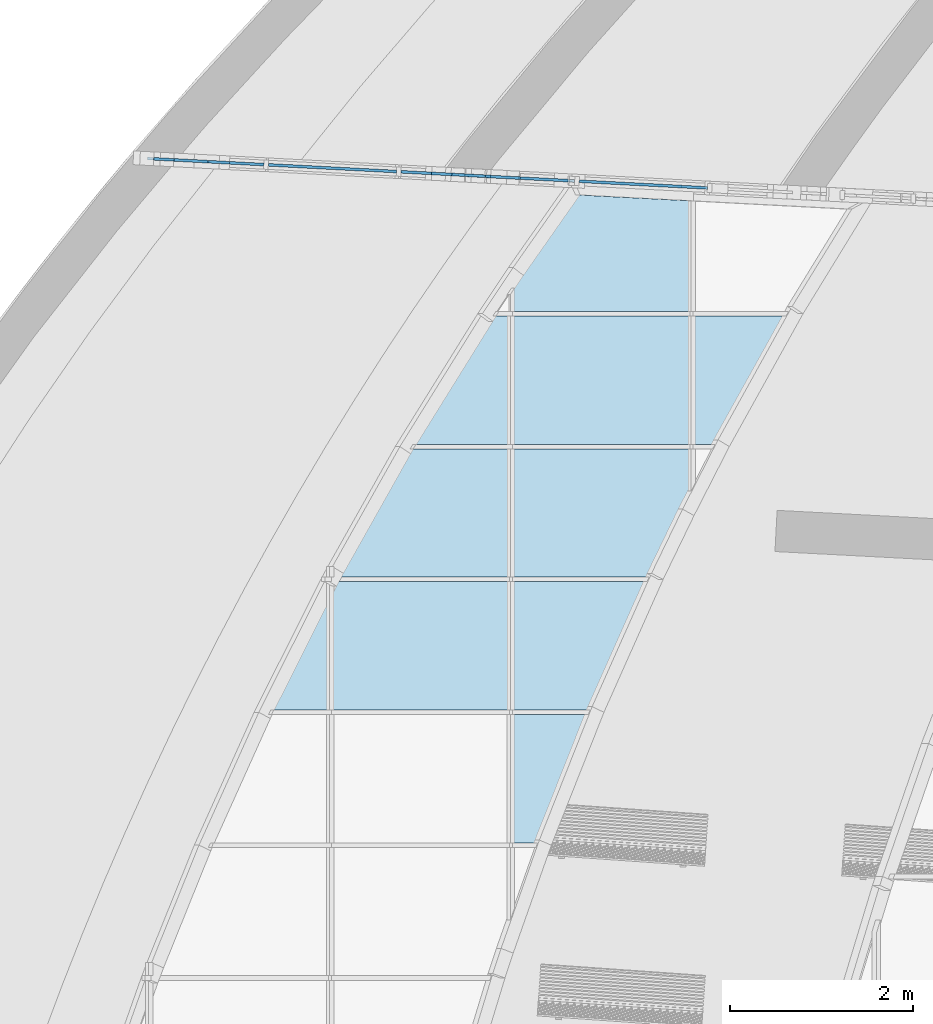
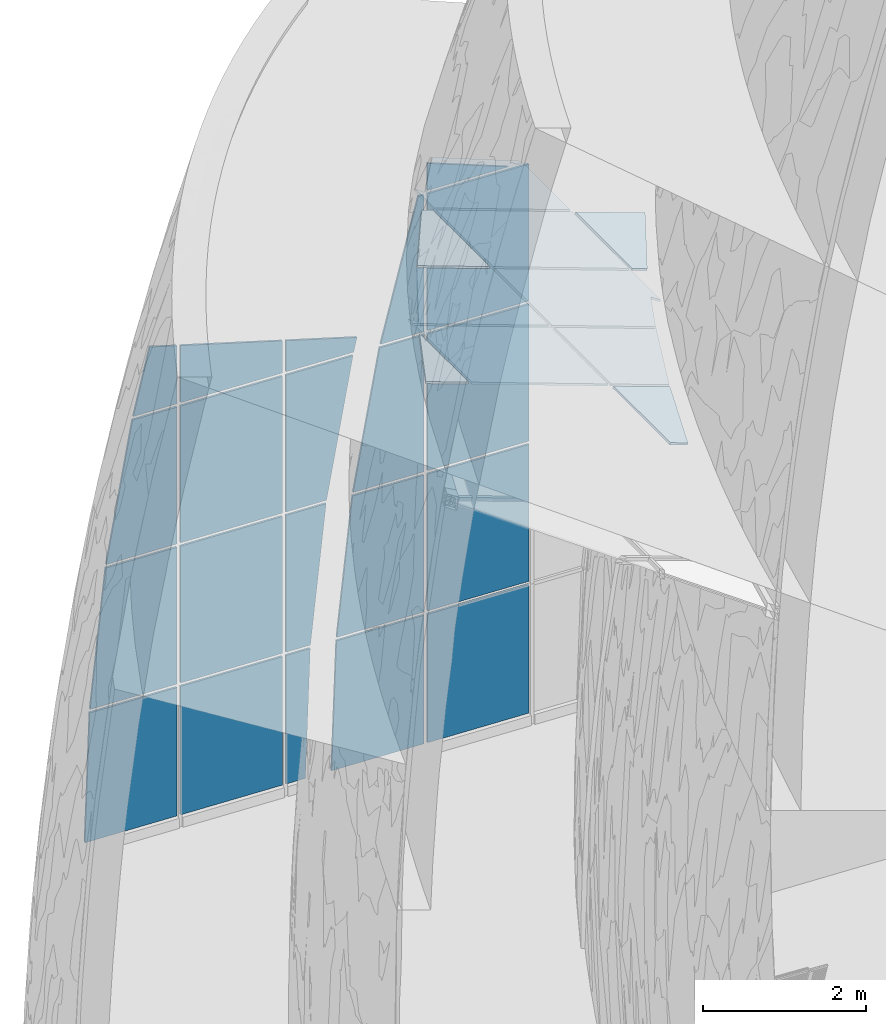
# One storey, part 42 of 82: 31 plates, 2 elements without a shape of their own.
"""IFC2X3 building model written with IfcOpenShell, lengths in millimetres."""

from ifc_helpers import new_model, entity, si_unit, converted_unit, derived_unit, direction, frame, frame_2d, origin, place, context, subcontext, project, spatial, polyline, rectangle, outline, extrude, source, transform, mapped, material, layer, layer_set, layer_usage, type_object, type_shapes, element, aggregate, save


model = new_model("IFC2X3")

# Units and contexts
model_context = context("Model", 3, precision=0.01, world=origin(), true_north=direction((6.12303176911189e-17, 1.0)))
body_context = subcontext(model_context, "Body", "Model", "MODEL_VIEW")
ifc_project = project(units=[si_unit("LENGTHUNIT", "METRE", prefix="MILLI"), si_unit("AREAUNIT", "SQUARE_METRE"), si_unit("VOLUMEUNIT", "CUBIC_METRE"), converted_unit("PLANEANGLEUNIT", "DEGREE", entity("IfcRatioMeasure", 0.0174532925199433), si_unit("PLANEANGLEUNIT", "RADIAN"), dimensions=[0, 0, 0, 0, 0, 0, 0]), si_unit("MASSUNIT", "GRAM", prefix="KILO"), derived_unit("MASSDENSITYUNIT", [(si_unit("MASSUNIT", "GRAM", prefix="KILO"), 1), (si_unit("LENGTHUNIT", "METRE"), -3)]), si_unit("TIMEUNIT", "SECOND"), si_unit("FREQUENCYUNIT", "HERTZ"), si_unit("THERMODYNAMICTEMPERATUREUNIT", "DEGREE_CELSIUS"), derived_unit("THERMALTRANSMITTANCEUNIT", [(si_unit("MASSUNIT", "GRAM", prefix="KILO"), 1), (si_unit("THERMODYNAMICTEMPERATUREUNIT", "KELVIN"), -1), (si_unit("TIMEUNIT", "SECOND"), -3)]), derived_unit("VOLUMETRICFLOWRATEUNIT", [(si_unit("LENGTHUNIT", "METRE"), 3), (si_unit("TIMEUNIT", "SECOND"), -1)]), si_unit("ELECTRICCURRENTUNIT", "AMPERE"), si_unit("ELECTRICVOLTAGEUNIT", "VOLT"), si_unit("POWERUNIT", "WATT"), si_unit("FORCEUNIT", "NEWTON", prefix="KILO"), si_unit("ILLUMINANCEUNIT", "LUX"), si_unit("LUMINOUSFLUXUNIT", "LUMEN"), si_unit("LUMINOUSINTENSITYUNIT", "CANDELA"), derived_unit("USERDEFINED", [(si_unit("MASSUNIT", "GRAM", prefix="KILO"), -1), (si_unit("LENGTHUNIT", "METRE"), -2), (si_unit("TIMEUNIT", "SECOND"), 3), (si_unit("LUMINOUSFLUXUNIT", "LUMEN"), 1)]), derived_unit("LINEARVELOCITYUNIT", [(si_unit("LENGTHUNIT", "METRE"), 1), (si_unit("TIMEUNIT", "SECOND"), -1)]), si_unit("PRESSUREUNIT", "PASCAL"), derived_unit("USERDEFINED", [(si_unit("LENGTHUNIT", "METRE"), -2), (si_unit("MASSUNIT", "GRAM", prefix="KILO"), 1), (si_unit("TIMEUNIT", "SECOND"), -2)])], contexts=[model_context])

# Site, building, storey
site_placement = place(None, origin())
site = spatial("IfcSite", under=ifc_project, at=site_placement, Name="表面", CompositionType="ELEMENT")
building_placement = place(site_placement, origin())
building = spatial("IfcBuilding", under=site, at=building_placement, CompositionType="ELEMENT")
storey_placement = place(building_placement, origin())
storey = spatial("IfcBuildingStorey", under=building, at=storey_placement, Name="1F", CompositionType="ELEMENT", Elevation=0.0)

# Curtain wall, plates
curtain_wall_type = type_object("IfcCurtainWallType", Name="幕墙系统:1450 x 2100mm", PredefinedType="NOTDEFINED")
curtain_wall_1_placement = place(storey_placement, origin())
curtain_wall_1 = element("IfcCurtainWall", 1, at=curtain_wall_1_placement, inside=storey, type_object=curtain_wall_type, Name="幕墙系统:1450 x 2100mm", ObjectType="幕墙系统:1450 x 2100mm")
ifc_material = material(Name="<Unnamed>")
ifc_layer = layer(ifc_material, 30.0)
ifc_layer_set = layer_set([ifc_layer], Name="幕墙系统:1450 x 2100mm")
ifc_layer_usage_1 = layer_usage(ifc_layer_set, "AXIS3", "POSITIVE", 0.0)
plate_type_1 = type_object("IfcPlateType", Name="玻璃", PredefinedType="CURTAIN_PANEL", material=ifc_layer_set)
shared_shape_1 = source(origin(), body_context, "Body", "SweptSolid", [
    extrude(rectangle(XDim=30.0, YDim=1400.0, at=frame_2d((0.0, 3.97903932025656e-13), x_axis=(1.0, 0.0))), frame((0.0, 0.0, 0.0), z_axis=(0.0, 0.0, 1.0), x_axis=(0.0, 1.0, 0.0)), (0.0, 0.0, 1.0), 2050.0),
])
type_shapes(plate_type_1, [shared_shape_1])
plate_1_placement = place(curtain_wall_1_placement, frame((-34757.9006727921, 3041.00133366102, 2125.0), z_axis=(0.0, 0.0, 1.0), x_axis=(0.998629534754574, -0.0523359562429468, 0.0)))
plate_1 = element("IfcPlate", 2, at=plate_1_placement, type_object=plate_type_1, material=ifc_layer_usage_1, Name="系统嵌板:玻璃", ObjectType="玻璃", context=body_context, shape_type="MappedRepresentation", body=[
    mapped(shared_shape_1, transform((0.0, 0.0, 0.0), scale=1.0)),
])
ifc_layer_usage_2 = layer_usage(ifc_layer_set, "AXIS3", "POSITIVE", 0.0)
plate_2_placement = place(curtain_wall_1_placement, frame((-34757.9006727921, 3041.00133366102, 4225.0), z_axis=(0.0, 0.0, 1.0), x_axis=(0.998629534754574, -0.0523359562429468, 0.0)))
plate_2 = element("IfcPlate", 3, at=plate_2_placement, type_object=plate_type_1, material=ifc_layer_usage_2, Name="系统嵌板:玻璃", ObjectType="玻璃", context=body_context, shape_type="MappedRepresentation", body=[
    mapped(shared_shape_1, transform((0.0, 0.0, 0.0), scale=1.0)),
])

curtain_wall_2_placement = place(storey_placement, origin())
curtain_wall_2 = element("IfcCurtainWall", 4, at=curtain_wall_2_placement, inside=storey, type_object=curtain_wall_type, Name="幕墙系统:1450 x 2100mm", ObjectType="幕墙系统:1450 x 2100mm")
ifc_layer_usage_3 = layer_usage(ifc_layer_set, "AXIS3", "POSITIVE", 0.0)
plate_3_placement = place(curtain_wall_2_placement, frame((-30860.0542247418, 728.123280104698, 8552.40943556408), z_axis=(-0.93969262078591, 0.0, 0.342020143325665), x_axis=(0.0, -1.0, 0.0)))
plate_3 = element("IfcPlate", 5, at=plate_3_placement, type_object=plate_type_1, material=ifc_layer_usage_3, Name="系统嵌板:玻璃", ObjectType="玻璃", context=body_context, shape_type="MappedRepresentation", body=[
    mapped(shared_shape_1, transform((0.0, 0.0, 0.0), scale=1.0)),
])
ifc_layer_usage_4 = layer_usage(ifc_layer_set, "AXIS3", "POSITIVE", 0.0)
plate_4_placement = place(curtain_wall_2_placement, frame((-32833.4087283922, -2171.8767198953, 9270.65173654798), z_axis=(-0.93969262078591, 0.0, 0.342020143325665), x_axis=(0.0, -1.0, 0.0)))
plate_4 = element("IfcPlate", 6, at=plate_4_placement, type_object=plate_type_1, material=ifc_layer_usage_4, Name="系统嵌板:玻璃", ObjectType="玻璃", context=body_context, shape_type="MappedRepresentation", body=[
    mapped(shared_shape_1, transform((0.0, 0.0, 0.0), scale=1.0)),
])
ifc_layer_usage_5 = layer_usage(ifc_layer_set, "AXIS3", "POSITIVE", 0.0)
plate_5_placement = place(curtain_wall_2_placement, frame((-31364.5512716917, 2862.11826024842, 2125.0), z_axis=(0.0, 0.0, 1.0), x_axis=(0.998629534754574, -0.0523359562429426, 0.0)))
plate_5 = element("IfcPlate", 7, at=plate_5_placement, type_object=plate_type_1, material=ifc_layer_usage_5, Name="系统嵌板:玻璃", ObjectType="玻璃", context=body_context, shape_type="MappedRepresentation", body=[
    mapped(shared_shape_1, transform((0.0, 0.0, 0.0), scale=1.0)),
])
ifc_layer_usage_6 = layer_usage(ifc_layer_set, "AXIS3", "POSITIVE", 0.0)
plate_6_placement = place(curtain_wall_2_placement, frame((-31364.5512716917, 2862.1182602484, 4225.0), z_axis=(0.0, 0.0, 1.0), x_axis=(0.998629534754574, -0.0523359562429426, 0.0)))
plate_6 = element("IfcPlate", 8, at=plate_6_placement, type_object=plate_type_1, material=ifc_layer_usage_6, Name="系统嵌板:玻璃", ObjectType="玻璃", context=body_context, shape_type="MappedRepresentation", body=[
    mapped(shared_shape_1, transform((0.0, 0.0, 0.0), scale=1.0)),
])
ifc_layer_usage_7 = layer_usage(ifc_layer_set, "AXIS3", "POSITIVE", 0.0)
plate_7_placement = place(curtain_wall_2_placement, frame((-31364.5512716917, 2862.11826024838, 6325.0), z_axis=(0.0, 0.0, 1.0), x_axis=(0.998629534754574, -0.0523359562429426, 0.0)))
plate_7 = element("IfcPlate", 9, at=plate_7_placement, type_object=plate_type_1, material=ifc_layer_usage_7, Name="系统嵌板:玻璃", ObjectType="玻璃", context=body_context, shape_type="MappedRepresentation", body=[
    mapped(shared_shape_1, transform((0.0, 0.0, 0.0), scale=1.0)),
])

# Plate
ifc_layer_usage_8 = layer_usage(ifc_layer_set, "AXIS3", "POSITIVE", 0.0)
plate_type_2 = type_object("IfcPlateType", Name="玻璃", PredefinedType="CURTAIN_PANEL", material=ifc_layer_set)
shared_shape_2 = source(origin(), body_context, "Body", "SweptSolid", [
    extrude(outline(polyline([(-984.524070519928, -617.774024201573), (941.635339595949, -617.774024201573), (983.365009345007, 584.383533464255), (-940.47627842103, 651.164514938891), (-984.524070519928, -617.774024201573)])), frame((16.7053007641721, -15.0, 962.5), z_axis=(0.0, 1.0, 0.0), x_axis=(0.0346914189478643, 0.0, 0.999398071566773)), (0.0, 0.0, 1.0), 30.0),
])
type_shapes(plate_type_2, [shared_shape_2])
plate_8_placement = place(curtain_wall_1_placement, frame((-36140.8485866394, 3113.47856268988, 150.0), z_axis=(0.0, 0.0, 1.0), x_axis=(0.998629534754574, -0.0523359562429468, 0.0)))
plate_8 = element("IfcPlate", 10, at=plate_8_placement, type_object=plate_type_2, material=ifc_layer_usage_8, Name="系统嵌板:玻璃", ObjectType="玻璃", context=body_context, shape_type="MappedRepresentation", body=[
    mapped(shared_shape_2, transform((0.0, 0.0, 0.0), scale=1.0)),
])

ifc_layer_usage_9 = layer_usage(ifc_layer_set, "AXIS3", "POSITIVE", 0.0)
plate_type_3 = type_object("IfcPlateType", Name="玻璃", PredefinedType="CURTAIN_PANEL", material=ifc_layer_set)
shared_shape_3 = source(origin(), body_context, "Body", "SweptSolid", [
    extrude(rectangle(XDim=30.0, YDim=1400.0, at=frame_2d((0.0, 3.97903932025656e-13), x_axis=(1.0, 0.0))), frame((0.0, 0.0, 0.0), z_axis=(0.0, 0.0, 1.0), x_axis=(0.0, 1.0, 0.0)), (0.0, 0.0, 1.0), 1925.0),
])
type_shapes(plate_type_3, [shared_shape_3])
plate_9_placement = place(curtain_wall_1_placement, frame((-34757.9006727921, 3041.00133366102, 150.0), z_axis=(0.0, 0.0, 1.0), x_axis=(0.998629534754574, -0.0523359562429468, 0.0)))
plate_9 = element("IfcPlate", 11, at=plate_9_placement, type_object=plate_type_3, material=ifc_layer_usage_9, Name="系统嵌板:玻璃", ObjectType="玻璃", context=body_context, shape_type="MappedRepresentation", body=[
    mapped(shared_shape_3, transform((0.0, 0.0, 0.0), scale=1.0)),
])

ifc_layer_usage_10 = layer_usage(ifc_layer_set, "AXIS3", "POSITIVE", 0.0)
plate_10_placement = place(curtain_wall_2_placement, frame((-31364.5512716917, 2862.11826024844, 150.0), z_axis=(0.0, 0.0, 1.0), x_axis=(0.998629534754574, -0.0523359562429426, 0.0)))
plate_10 = element("IfcPlate", 12, at=plate_10_placement, type_object=plate_type_3, material=ifc_layer_usage_10, Name="系统嵌板:玻璃", ObjectType="玻璃", context=body_context, shape_type="MappedRepresentation", body=[
    mapped(shared_shape_3, transform((0.0, 0.0, 0.0), scale=1.0)),
])

ifc_layer_usage_11 = layer_usage(ifc_layer_set, "AXIS3", "POSITIVE", 0.0)
plate_type_4 = type_object("IfcPlateType", Name="玻璃", PredefinedType="CURTAIN_PANEL", material=ifc_layer_set)
shared_shape_4 = source(origin(), body_context, "Body", "SweptSolid", [
    extrude(outline(polyline([(-962.5, -150.91141552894), (962.5, -150.91141552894), (962.5, 184.644975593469), (-962.5, 117.177855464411), (-962.5, -150.91141552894)])), frame((-16.8667800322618, -15.0, 962.5), z_axis=(0.0, 1.0, 0.0), x_axis=(0.0, 0.0, 1.0)), (0.0, 0.0, 1.0), 30.0),
])
type_shapes(plate_type_4, [shared_shape_4])
plate_11_placement = place(curtain_wall_1_placement, frame((-33841.3802603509, 2992.9685341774, 150.0), z_axis=(0.0, 0.0, 1.0), x_axis=(0.998629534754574, -0.0523359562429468, 0.0)))
plate_11 = element("IfcPlate", 13, at=plate_11_placement, type_object=plate_type_4, material=ifc_layer_usage_11, Name="系统嵌板:玻璃", ObjectType="玻璃", context=body_context, shape_type="MappedRepresentation", body=[
    mapped(shared_shape_4, transform((0.0, 0.0, 0.0), scale=1.0)),
])

ifc_layer_usage_12 = layer_usage(ifc_layer_set, "AXIS3", "POSITIVE", 0.0)
plate_type_5 = type_object("IfcPlateType", Name="玻璃", PredefinedType="CURTAIN_PANEL", material=ifc_layer_set)
shared_shape_5 = source(origin(), body_context, "Body", "SweptSolid", [
    extrude(outline(polyline([(-1087.51229020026, -542.537057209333), (973.728067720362, -542.537057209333), (1076.302580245, 435.6385273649), (-962.518357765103, 649.435587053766), (-1087.51229020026, -542.537057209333)])), frame((53.7423326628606, -15.0, 1025.0), z_axis=(0.0, 1.0, 0.0), x_axis=(0.104291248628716, 0.0, 0.994546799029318)), (0.0, 0.0, 1.0), 30.0),
])
type_shapes(plate_type_5, [shared_shape_5])
plate_12_placement = place(curtain_wall_1_placement, frame((-36105.3057424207, 3111.61584115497, 2125.0), z_axis=(0.0, 0.0, 1.0), x_axis=(0.998629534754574, -0.0523359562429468, 0.0)))
plate_12 = element("IfcPlate", 14, at=plate_12_placement, type_object=plate_type_5, material=ifc_layer_usage_12, Name="系统嵌板:玻璃", ObjectType="玻璃", context=body_context, shape_type="MappedRepresentation", body=[
    mapped(shared_shape_5, transform((0.0, 0.0, 0.0), scale=1.0)),
])

ifc_layer_usage_13 = layer_usage(ifc_layer_set, "AXIS3", "POSITIVE", 0.0)
plate_type_6 = type_object("IfcPlateType", Name="玻璃", PredefinedType="CURTAIN_PANEL", material=ifc_layer_set)
shared_shape_6 = source(origin(), body_context, "Body", "SweptSolid", [
    extrude(outline(polyline([(-1025.0, -223.318765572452), (1025.0, -223.318765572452), (1025.0, 331.625046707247), (-1025.0, 115.012484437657), (-1025.0, -223.318765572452)])), frame((-54.153140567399, -15.0, 1025.0), z_axis=(0.0, 1.0, 0.0), x_axis=(0.0, 0.0, 1.0)), (0.0, 0.0, 1.0), 30.0),
])
type_shapes(plate_type_6, [shared_shape_6])
plate_13_placement = place(curtain_wall_1_placement, frame((-33731.8368811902, 2987.22760894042, 2125.0), z_axis=(0.0, 0.0, 1.0), x_axis=(0.998629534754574, -0.0523359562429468, 0.0)))
plate_13 = element("IfcPlate", 15, at=plate_13_placement, type_object=plate_type_6, material=ifc_layer_usage_13, Name="系统嵌板:玻璃", ObjectType="玻璃", context=body_context, shape_type="MappedRepresentation", body=[
    mapped(shared_shape_6, transform((0.0, 0.0, 0.0), scale=1.0)),
])

ifc_layer_usage_14 = layer_usage(ifc_layer_set, "AXIS3", "POSITIVE", 0.0)
plate_type_7 = type_object("IfcPlateType", Name="玻璃", PredefinedType="CURTAIN_PANEL", material=ifc_layer_set)
shared_shape_7 = source(origin(), body_context, "Body", "SweptSolid", [
    extrude(outline(polyline([(-1109.8590029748, -390.999932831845), (971.829943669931, -390.999932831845), (1078.41125214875, 212.833559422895), (-940.38219284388, 569.166306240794), (-1109.8590029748, -390.999932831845)])), frame((90.4602366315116, -15.0, 1025.0), z_axis=(0.0, 1.0, 0.0), x_axis=(0.173820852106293, 0.0, 0.984777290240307)), (0.0, 0.0, 1.0), 30.0),
])
type_shapes(plate_type_7, [shared_shape_7])
plate_14_placement = place(curtain_wall_1_placement, frame((-35993.7089715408, 3105.76730221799, 4225.0), z_axis=(0.0, 0.0, 1.0), x_axis=(0.998629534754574, -0.0523359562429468, 0.0)))
plate_14 = element("IfcPlate", 16, at=plate_14_placement, type_object=plate_type_7, material=ifc_layer_usage_14, Name="系统嵌板:玻璃", ObjectType="玻璃", context=body_context, shape_type="MappedRepresentation", body=[
    mapped(shared_shape_7, transform((0.0, 0.0, 0.0), scale=1.0)),
])

ifc_layer_usage_15 = layer_usage(ifc_layer_set, "AXIS3", "POSITIVE", 0.0)
plate_type_8 = type_object("IfcPlateType", Name="玻璃", PredefinedType="CURTAIN_PANEL", material=ifc_layer_set)
shared_shape_8 = source(origin(), body_context, "Body", "SweptSolid", [
    extrude(outline(polyline([(-1025.0, -371.422138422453), (1025.0, -371.422138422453), (1025.0, 553.753555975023), (-1025.0, 189.090720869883), (-1025.0, -371.422138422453)])), frame((-91.1657087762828, -15.0, 1025.0), z_axis=(0.0, 1.0, 0.0), x_axis=(0.0, 0.0, 1.0)), (0.0, 0.0, 1.0), 30.0),
])
type_shapes(plate_type_8, [shared_shape_8])
plate_15_placement = place(curtain_wall_1_placement, frame((-33546.9746350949, 2977.53938914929, 4225.0), z_axis=(0.0, 0.0, 1.0), x_axis=(0.998629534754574, -0.0523359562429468, 0.0)))
plate_15 = element("IfcPlate", 17, at=plate_15_placement, type_object=plate_type_8, material=ifc_layer_usage_15, Name="系统嵌板:玻璃", ObjectType="玻璃", context=body_context, shape_type="MappedRepresentation", body=[
    mapped(shared_shape_8, transform((0.0, 0.0, 0.0), scale=1.0)),
])

ifc_layer_usage_16 = layer_usage(ifc_layer_set, "AXIS3", "POSITIVE", 0.0)
plate_type_9 = type_object("IfcPlateType", Name="玻璃", PredefinedType="CURTAIN_PANEL", material=ifc_layer_set)
shared_shape_9 = source(origin(), body_context, "Body", "SweptSolid", [
    extrude(outline(polyline([(-529.186854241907, -243.092206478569), (466.731537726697, -243.092206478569), (454.567776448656, 143.952165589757), (-392.112459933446, 342.232247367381), (-529.186854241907, -243.092206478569)])), frame((56.7713947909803, -15.0, 459.817683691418), z_axis=(0.0, 1.0, 0.0), x_axis=(0.228016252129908, 0.0, 0.973657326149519)), (0.0, 0.0, 1.0), 30.0),
])
type_shapes(plate_type_9, [shared_shape_9])
plate_16_placement = place(curtain_wall_1_placement, frame((-35807.0412051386, 3095.98445911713, 6325.0), z_axis=(0.0, 0.0, 1.0), x_axis=(0.998629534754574, -0.0523359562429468, 0.0)))
plate_16 = element("IfcPlate", 18, at=plate_16_placement, type_object=plate_type_9, material=ifc_layer_usage_16, Name="系统嵌板:玻璃", ObjectType="玻璃", context=body_context, shape_type="MappedRepresentation", body=[
    mapped(shared_shape_9, transform((0.0, 0.0, 0.0), scale=1.0)),
])

ifc_layer_usage_17 = layer_usage(ifc_layer_set, "AXIS3", "POSITIVE", 0.0)
plate_type_10 = type_object("IfcPlateType", Name="玻璃", PredefinedType="CURTAIN_PANEL", material=ifc_layer_set)
shared_shape_10 = source(origin(), body_context, "Body", "SweptSolid", [
    extrude(outline(polyline([(-334.450506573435, -700.0), (521.757890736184, -700.0), (147.143122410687, 700.0), (-334.450506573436, 700.0), (-334.450506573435, -700.0)])), frame((0.0, -15.0, 334.450506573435), z_axis=(0.0, 1.0, 0.0), x_axis=(0.0, 0.0, 1.0)), (0.0, 0.0, 1.0), 30.0),
])
type_shapes(plate_type_10, [shared_shape_10])
plate_17_placement = place(curtain_wall_1_placement, frame((-34757.9006727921, 3041.00133366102, 6325.0), z_axis=(0.0, 0.0, 1.0), x_axis=(0.998629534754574, -0.0523359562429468, 0.0)))
plate_17 = element("IfcPlate", 19, at=plate_17_placement, type_object=plate_type_10, material=ifc_layer_usage_17, Name="系统嵌板:玻璃", ObjectType="玻璃", context=body_context, shape_type="MappedRepresentation", body=[
    mapped(shared_shape_10, transform((0.0, 0.0, 0.0), scale=1.0)),
])

ifc_layer_usage_18 = layer_usage(ifc_layer_set, "AXIS3", "POSITIVE", 0.0)
plate_type_11 = type_object("IfcPlateType", Name="玻璃", PredefinedType="CURTAIN_PANEL", material=ifc_layer_set)
shared_shape_11 = source(origin(), body_context, "Body", "SweptSolid", [
    extrude(outline(polyline([(-168.588712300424, -478.325131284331), (299.625817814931, -478.325131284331), (37.5516067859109, 501.091395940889), (-168.588712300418, 455.558866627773), (-168.588712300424, -478.325131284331)])), frame((-11.3831323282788, -15.0, 168.588712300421), z_axis=(0.0, 1.0, 0.0), x_axis=(0.0, 0.0, 1.0)), (0.0, 0.0, 1.0), 30.0),
])
type_shapes(plate_type_11, [shared_shape_11])
plate_18_placement = place(curtain_wall_1_placement, frame((-33519.8913862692, 2976.12001622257, 6325.0), z_axis=(0.0, 0.0, 1.0), x_axis=(0.998629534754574, -0.0523359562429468, 0.0)))
plate_18 = element("IfcPlate", 20, at=plate_18_placement, type_object=plate_type_11, material=ifc_layer_usage_18, Name="系统嵌板:玻璃", ObjectType="玻璃", context=body_context, shape_type="MappedRepresentation", body=[
    mapped(shared_shape_11, transform((0.0, 0.0, 0.0), scale=1.0)),
])

aggregate(curtain_wall_1, [plate_8, plate_9, plate_11, plate_12, plate_1, plate_13, plate_14, plate_2, plate_15, plate_16, plate_17, plate_18])

ifc_layer_usage_19 = layer_usage(ifc_layer_set, "AXIS3", "POSITIVE", 0.0)
plate_type_12 = type_object("IfcPlateType", Name="玻璃", PredefinedType="CURTAIN_PANEL", material=ifc_layer_set)
shared_shape_12 = source(origin(), body_context, "Body", "SweptSolid", [
    extrude(outline(polyline([(-733.016472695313, -700.0), (319.534341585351, -700.0), (319.534341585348, 700.0), (93.9477895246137, 700.0), (-733.016472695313, -700.0)])), frame((0.0, -15.0, 733.016472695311), z_axis=(0.0, 1.0, 0.0), x_axis=(0.0, 0.0, 1.0)), (0.0, 0.0, 1.0), 30.0),
])
type_shapes(plate_type_12, [shared_shape_12])
plate_19_placement = place(curtain_wall_2_placement, frame((-29823.9953605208, 728.123280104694, 8175.31484803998), z_axis=(-0.93969262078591, 0.0, 0.342020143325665), x_axis=(0.0, -1.0, 0.0)))
plate_19 = element("IfcPlate", 21, at=plate_19_placement, type_object=plate_type_12, material=ifc_layer_usage_19, Name="系统嵌板:玻璃", ObjectType="玻璃", context=body_context, shape_type="MappedRepresentation", body=[
    mapped(shared_shape_12, transform((0.0, 0.0, 0.0), scale=1.0)),
])

ifc_layer_usage_20 = layer_usage(ifc_layer_set, "AXIS3", "POSITIVE", 0.0)
plate_type_13 = type_object("IfcPlateType", Name="玻璃", PredefinedType="CURTAIN_PANEL", material=ifc_layer_set)
shared_shape_13 = source(origin(), body_context, "Body", "SweptSolid", [
    extrude(outline(polyline([(-1191.88362979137, -708.877721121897), (106.764312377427, -708.877721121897), (720.312032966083, 203.881080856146), (819.831554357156, 118.970903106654), (796.247161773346, 597.869011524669), (-1251.27143168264, 497.034446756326), (-1191.88362979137, -708.877721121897)])), frame((77.6456502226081, -15.0, 1225.30891205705), z_axis=(0.0, 1.0, 0.0), x_axis=(-0.0491875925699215, 0.0, 0.998789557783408)), (0.0, 0.0, 1.0), 30.0),
])
type_shapes(plate_type_13, [shared_shape_13])
plate_20_placement = place(curtain_wall_2_placement, frame((-30860.0542247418, 2113.74877498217, 8552.40943556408), z_axis=(-0.93969262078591, 0.0, 0.342020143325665), x_axis=(0.0, -1.0, 0.0)))
plate_20 = element("IfcPlate", 22, at=plate_20_placement, type_object=plate_type_13, material=ifc_layer_usage_20, Name="系统嵌板:玻璃", ObjectType="玻璃", context=body_context, shape_type="MappedRepresentation", body=[
    mapped(shared_shape_13, transform((0.0, 0.0, 0.0), scale=1.0)),
])

ifc_layer_usage_21 = layer_usage(ifc_layer_set, "AXIS3", "POSITIVE", 0.0)
plate_type_14 = type_object("IfcPlateType", Name="玻璃", PredefinedType="CURTAIN_PANEL", material=ifc_layer_set)
shared_shape_14 = source(origin(), body_context, "Body", "SweptSolid", [
    extrude(outline(polyline([(-783.007359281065, -698.028006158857), (1266.99264071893, -698.028006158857), (1266.99264071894, 701.971993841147), (-293.309030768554, 701.97199384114), (-674.661532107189, -38.2910777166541), (-783.007359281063, 30.4031023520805), (-783.007359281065, -698.028006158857)])), frame((-1.97199384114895, -15.0, 783.00735928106), z_axis=(0.0, 1.0, 0.0), x_axis=(0.0, 0.0, 1.0)), (0.0, 0.0, 1.0), 30.0),
])
type_shapes(plate_type_14, [shared_shape_14])
plate_21_placement = place(curtain_wall_2_placement, frame((-30860.0542247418, -721.876719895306, 8552.40943556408), z_axis=(-0.93969262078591, 0.0, 0.342020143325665), x_axis=(0.0, -1.0, 0.0)))
plate_21 = element("IfcPlate", 23, at=plate_21_placement, type_object=plate_type_14, material=ifc_layer_usage_21, Name="系统嵌板:玻璃", ObjectType="玻璃", context=body_context, shape_type="MappedRepresentation", body=[
    mapped(shared_shape_14, transform((0.0, 0.0, 0.0), scale=1.0)),
])

ifc_layer_usage_22 = layer_usage(ifc_layer_set, "AXIS3", "POSITIVE", 0.0)
plate_type_15 = type_object("IfcPlateType", Name="玻璃", PredefinedType="CURTAIN_PANEL", material=ifc_layer_set)
shared_shape_15 = source(origin(), body_context, "Body", "SweptSolid", [
    extrude(outline(polyline([(-935.07095936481, -700.0), (603.233560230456, -700.0), (603.233560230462, 700.0), (-271.396161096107, 700.0), (-935.07095936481, -700.0)])), frame((0.0, -15.0, 935.070959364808), z_axis=(0.0, 1.0, 0.0), x_axis=(0.0, 0.0, 1.0)), (0.0, 0.0, 1.0), 30.0),
])
type_shapes(plate_type_15, [shared_shape_15])
plate_22_placement = place(curtain_wall_2_placement, frame((-31340.8906917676, -2171.8767198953, 8727.41959711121), z_axis=(-0.93969262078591, 0.0, 0.342020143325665), x_axis=(0.0, -1.0, 0.0)))
plate_22 = element("IfcPlate", 24, at=plate_22_placement, type_object=plate_type_15, material=ifc_layer_usage_22, Name="系统嵌板:玻璃", ObjectType="玻璃", context=body_context, shape_type="MappedRepresentation", body=[
    mapped(shared_shape_15, transform((0.0, 0.0, 0.0), scale=1.0)),
])

ifc_layer_usage_23 = layer_usage(ifc_layer_set, "AXIS3", "POSITIVE", 0.0)
plate_type_16 = type_object("IfcPlateType", Name="玻璃", PredefinedType="CURTAIN_PANEL", material=ifc_layer_set)
shared_shape_16 = source(origin(), body_context, "Body", "SweptSolid", [
    extrude(outline(polyline([(-575.192577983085, -700.0), (280.286222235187, -700.0), (280.2862222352, 700.0), (14.6201335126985, 700.0), (-575.192577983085, -700.0)])), frame((0.0, -15.0, 575.192577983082), z_axis=(0.0, 1.0, 0.0), x_axis=(0.0, 0.0, 1.0)), (0.0, 0.0, 1.0), 30.0),
])
type_shapes(plate_type_16, [shared_shape_16])
plate_23_placement = place(curtain_wall_2_placement, frame((-31982.536981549, -3621.87671989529, 8960.95974751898), z_axis=(-0.93969262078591, 0.0, 0.342020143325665), x_axis=(0.0, -1.0, 0.0)))
plate_23 = element("IfcPlate", 25, at=plate_23_placement, type_object=plate_type_16, material=ifc_layer_usage_23, Name="系统嵌板:玻璃", ObjectType="玻璃", context=body_context, shape_type="MappedRepresentation", body=[
    mapped(shared_shape_16, transform((0.0, 0.0, 0.0), scale=1.0)),
])

ifc_layer_usage_24 = layer_usage(ifc_layer_set, "AXIS3", "POSITIVE", 0.0)
plate_type_17 = type_object("IfcPlateType", Name="玻璃", PredefinedType="CURTAIN_PANEL", material=ifc_layer_set)
shared_shape_17 = source(origin(), body_context, "Body", "SweptSolid", [
    extrude(outline(polyline([(-315.875738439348, -700.0), (-146.77267290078, -700.0), (778.52414977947, 700.0), (-315.875738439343, 700.0), (-315.875738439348, -700.0)])), frame((0.0, -15.0, 315.875738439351), z_axis=(0.0, 1.0, 0.0), x_axis=(0.0, 0.0, 1.0)), (0.0, 0.0, 1.0), 30.0),
])
type_shapes(plate_type_17, [shared_shape_17])
plate_24_placement = place(curtain_wall_2_placement, frame((-32833.4087283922, 728.123280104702, 9270.65173654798), z_axis=(-0.93969262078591, 0.0, 0.342020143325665), x_axis=(0.0, -1.0, 0.0)))
plate_24 = element("IfcPlate", 26, at=plate_24_placement, type_object=plate_type_17, material=ifc_layer_usage_24, Name="系统嵌板:玻璃", ObjectType="玻璃", context=body_context, shape_type="MappedRepresentation", body=[
    mapped(shared_shape_17, transform((0.0, 0.0, 0.0), scale=1.0)),
])

ifc_layer_usage_25 = layer_usage(ifc_layer_set, "AXIS3", "POSITIVE", 0.0)
plate_type_18 = type_object("IfcPlateType", Name="玻璃", PredefinedType="CURTAIN_PANEL", material=ifc_layer_set)
shared_shape_18 = source(origin(), body_context, "Body", "SweptSolid", [
    extrude(outline(polyline([(-1196.19404528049, -908.079425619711), (-65.3122647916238, -908.079425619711), (750.088445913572, 454.667950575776), (853.805954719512, 377.649751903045), (853.805954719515, 491.920574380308), (-1196.19404528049, 491.920574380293), (-1196.19404528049, -908.079425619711)])), frame((208.079425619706, -15.0, 1196.19404528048), z_axis=(0.0, 1.0, 0.0), x_axis=(0.0, 0.0, 1.0)), (0.0, 0.0, 1.0), 30.0),
])
type_shapes(plate_type_18, [shared_shape_18])
plate_25_placement = place(curtain_wall_2_placement, frame((-32833.4087283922, -721.876719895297, 9270.65173654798), z_axis=(-0.93969262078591, 0.0, 0.342020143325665), x_axis=(0.0, -1.0, 0.0)))
plate_25 = element("IfcPlate", 27, at=plate_25_placement, type_object=plate_type_18, material=ifc_layer_usage_25, Name="系统嵌板:玻璃", ObjectType="玻璃", context=body_context, shape_type="MappedRepresentation", body=[
    mapped(shared_shape_18, transform((0.0, 0.0, 0.0), scale=1.0)),
])

ifc_layer_usage_26 = layer_usage(ifc_layer_set, "AXIS3", "POSITIVE", 0.0)
plate_type_19 = type_object("IfcPlateType", Name="玻璃", PredefinedType="CURTAIN_PANEL", material=ifc_layer_set)
shared_shape_19 = source(origin(), body_context, "Body", "SweptSolid", [
    extrude(outline(polyline([(-811.715093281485, -189.959860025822), (558.311295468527, -189.959860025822), (253.403797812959, 379.919720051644), (-811.715093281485, -189.959860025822)])), frame((201.331745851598, -15.0, 215.440457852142), z_axis=(0.0, 1.0, 0.0), x_axis=(0.881727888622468, 0.0, 0.471758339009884)), (0.0, 0.0, 1.0), 30.0),
])
type_shapes(plate_type_19, [shared_shape_19])
plate_26_placement = place(curtain_wall_2_placement, frame((-34806.7632320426, -2267.88148234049, 9988.89403753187), z_axis=(-0.93969262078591, 0.0, 0.342020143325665), x_axis=(0.0, -1.0, 0.0)))
plate_26 = element("IfcPlate", 28, at=plate_26_placement, type_object=plate_type_19, material=ifc_layer_usage_26, Name="系统嵌板:玻璃", ObjectType="玻璃", context=body_context, shape_type="MappedRepresentation", body=[
    mapped(shared_shape_19, transform((0.0, 0.0, 0.0), scale=1.0)),
])

ifc_layer_usage_27 = layer_usage(ifc_layer_set, "AXIS3", "POSITIVE", 0.0)
plate_type_20 = type_object("IfcPlateType", Name="玻璃", PredefinedType="CURTAIN_PANEL", material=ifc_layer_set)
shared_shape_20 = source(origin(), body_context, "Body", "SweptSolid", [
    extrude(outline(polyline([(-984.780330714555, -617.538444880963), (941.406359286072, -617.538444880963), (983.594006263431, 583.757772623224), (-940.220034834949, 651.319117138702), (-984.780330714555, -617.538444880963)])), frame((16.9007483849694, -15.0, 962.500000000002), z_axis=(0.0, 1.0, 0.0), x_axis=(0.0350968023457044, 0.0, 0.999383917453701)), (0.0, 0.0, 1.0), 30.0),
])
type_shapes(plate_type_20, [shared_shape_20])
plate_27_placement = place(curtain_wall_2_placement, frame((-32747.4733066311, 2934.59413302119, 150.0), z_axis=(0.0, 0.0, 1.0), x_axis=(0.998629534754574, -0.0523359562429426, 0.0)))
plate_27 = element("IfcPlate", 29, at=plate_27_placement, type_object=plate_type_20, material=ifc_layer_usage_27, Name="系统嵌板:玻璃", ObjectType="玻璃", context=body_context, shape_type="MappedRepresentation", body=[
    mapped(shared_shape_20, transform((0.0, 0.0, 0.0), scale=1.0)),
])

ifc_layer_usage_28 = layer_usage(ifc_layer_set, "AXIS3", "POSITIVE", 0.0)
plate_type_21 = type_object("IfcPlateType", Name="玻璃", PredefinedType="CURTAIN_PANEL", material=ifc_layer_set)
shared_shape_21 = source(origin(), body_context, "Body", "SweptSolid", [
    extrude(outline(polyline([(-1088.07293351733, -541.592340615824), (973.385790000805, -541.592340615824), (1076.64605694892, 433.669017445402), (-961.958913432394, 649.515663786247), (-1088.07293351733, -541.592340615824)])), frame((54.263286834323, -15.0, 1025.0), z_axis=(0.0, 1.0, 0.0), x_axis=(0.105291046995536, 0.0, 0.994441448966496)), (0.0, 0.0, 1.0), 30.0),
])
type_shapes(plate_type_21, [shared_shape_21])
plate_28_placement = place(curtain_wall_2_placement, frame((-32711.5855980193, 2932.71333790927, 2125.0), z_axis=(0.0, 0.0, 1.0), x_axis=(0.998629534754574, -0.0523359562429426, 0.0)))
plate_28 = element("IfcPlate", 30, at=plate_28_placement, type_object=plate_type_21, material=ifc_layer_usage_28, Name="系统嵌板:玻璃", ObjectType="玻璃", context=body_context, shape_type="MappedRepresentation", body=[
    mapped(shared_shape_21, transform((0.0, 0.0, 0.0), scale=1.0)),
])

ifc_layer_usage_29 = layer_usage(ifc_layer_set, "AXIS3", "POSITIVE", 0.0)
plate_type_22 = type_object("IfcPlateType", Name="玻璃", PredefinedType="CURTAIN_PANEL", material=ifc_layer_set)
shared_shape_22 = source(origin(), body_context, "Body", "SweptSolid", [
    extrude(outline(polyline([(-1110.41950378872, -388.56191034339), (971.894476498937, -388.56191034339), (1078.35625257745, 208.687437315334), (-939.831225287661, 568.436383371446), (-1110.41950378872, -388.56191034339)])), frame((91.3549097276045, -15.0, 1025.0), z_axis=(0.0, 1.0, 0.0), x_axis=(0.175487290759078, 0.0, 0.984481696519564)), (0.0, 0.0, 1.0), 30.0),
])
type_shapes(plate_type_22, [shared_shape_22])
plate_29_placement = place(curtain_wall_2_placement, frame((-32598.8990088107, 2926.80768401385, 4225.0), z_axis=(0.0, 0.0, 1.0), x_axis=(0.998629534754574, -0.0523359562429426, 0.0)))
plate_29 = element("IfcPlate", 31, at=plate_29_placement, type_object=plate_type_22, material=ifc_layer_usage_29, Name="系统嵌板:玻璃", ObjectType="玻璃", context=body_context, shape_type="MappedRepresentation", body=[
    mapped(shared_shape_22, transform((0.0, 0.0, 0.0), scale=1.0)),
])

ifc_layer_usage_30 = layer_usage(ifc_layer_set, "AXIS3", "POSITIVE", 0.0)
plate_type_23 = type_object("IfcPlateType", Name="玻璃", PredefinedType="CURTAIN_PANEL", material=ifc_layer_set)
shared_shape_23 = source(origin(), body_context, "Body", "SweptSolid", [
    extrude(outline(polyline([(-1098.40342453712, -161.73607010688), (1016.41755755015, -161.73607010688), (1034.5758503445, -90.093212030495), (-952.589983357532, 413.565352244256), (-1098.40342453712, -161.73607010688)])), frame((129.896060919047, -15.0, 1025.0), z_axis=(0.0, 1.0, 0.0), x_axis=(0.24568710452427, 0.0, 0.969349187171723)), (0.0, 0.0, 1.0), 30.0),
])
type_shapes(plate_type_23, [shared_shape_23])
plate_30_placement = place(curtain_wall_2_placement, frame((-32409.8629665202, 2916.90072483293, 6325.0), z_axis=(0.0, 0.0, 1.0), x_axis=(0.998629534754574, -0.0523359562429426, 0.0)))
plate_30 = element("IfcPlate", 32, at=plate_30_placement, type_object=plate_type_23, material=ifc_layer_usage_30, Name="系统嵌板:玻璃", ObjectType="玻璃", context=body_context, shape_type="MappedRepresentation", body=[
    mapped(shared_shape_23, transform((0.0, 0.0, 0.0), scale=1.0)),
])

ifc_layer_usage_31 = layer_usage(ifc_layer_set, "AXIS3", "POSITIVE", 0.0)
plate_type_24 = type_object("IfcPlateType", Name="玻璃", PredefinedType="CURTAIN_PANEL", material=ifc_layer_set)
shared_shape_24 = source(origin(), body_context, "Body", "SweptSolid", [
    extrude(outline(polyline([(-135.286750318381, -372.207388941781), (270.573500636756, -372.207388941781), (-135.286750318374, 744.414777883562), (-135.286750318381, -372.207388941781)])), frame((-186.103694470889, -15.0, 135.286750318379), z_axis=(0.0, 1.0, 0.0), x_axis=(0.0, 0.0, 1.0)), (0.0, 0.0, 1.0), 30.0),
])
type_shapes(plate_type_24, [shared_shape_24])
plate_31_placement = place(curtain_wall_2_placement, frame((-31506.0460085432, 2869.53368518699, 8425.0), z_axis=(0.0, 0.0, 1.0), x_axis=(0.998629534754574, -0.0523359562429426, 0.0)))
plate_31 = element("IfcPlate", 33, at=plate_31_placement, type_object=plate_type_24, material=ifc_layer_usage_31, Name="系统嵌板:玻璃", ObjectType="玻璃", context=body_context, shape_type="MappedRepresentation", body=[
    mapped(shared_shape_24, transform((0.0, 0.0, 0.0), scale=1.0)),
])

aggregate(curtain_wall_2, [plate_19, plate_20, plate_3, plate_21, plate_22, plate_23, plate_24, plate_25, plate_4, plate_26, plate_27, plate_10, plate_28, plate_5, plate_29, plate_6, plate_30, plate_7, plate_31])

save(model, "model.ifc")
